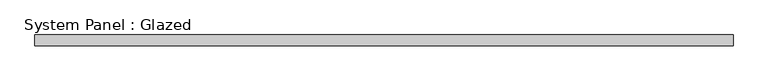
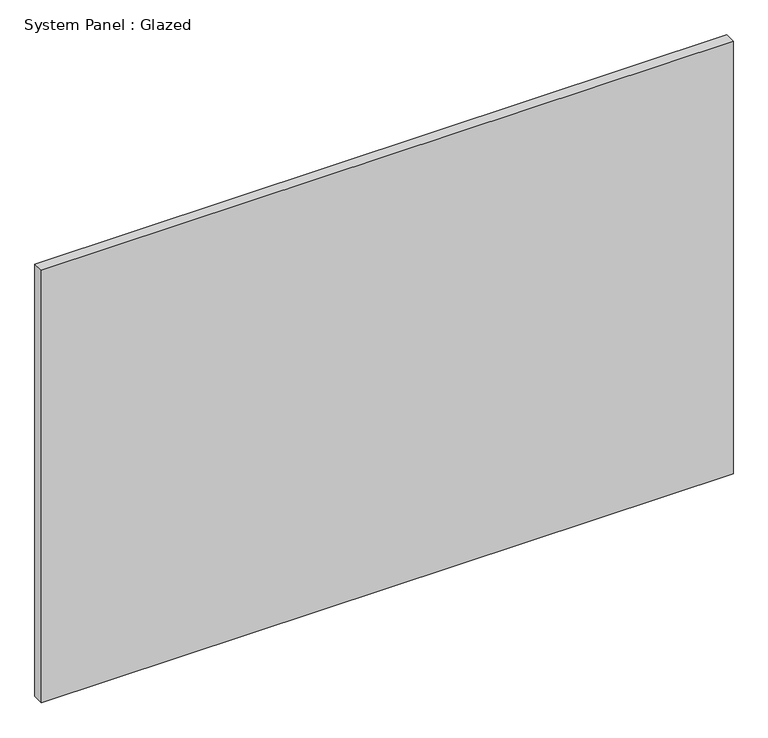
"""IFC4 building model written with IfcOpenShell, lengths in millimetres: plate geometry, System Panel : Glazed."""

from ifc_helpers import new_model, si_unit, origin, origin_with_axes, place, context, project, spatial, polyline, outline, extrude, source, transform, mapped, element, save


def system_panel_glazed_fcc6e020(model_context):
    return source(origin(), model_context, "Body", "SweptSolid", [
        extrude(outline(polyline([(806.8423679, 19.05), (-806.8423679, 19.05), (-806.8423679, 44.45), (806.8423679, 44.45), (806.8423679, 19.05)])), origin_with_axes(), (0.0, 0.0, 1.0), 1066.0767085),
    ])


if __name__ == "__main__":
    model = new_model("IFC4")
    model_context = context("Model", 3, world=origin())
    ifc_project = project(units=[si_unit("LENGTHUNIT", "METRE", prefix="MILLI")], contexts=[model_context])
    site = spatial("IfcSite", under=ifc_project)
    building = spatial("IfcBuilding", under=site)
    placement = place(None, origin())
    system_panel_glazed_shape = system_panel_glazed_fcc6e020(model_context)
    element("IfcPlate", 1, ObjectType="System Panel : Glazed", at=placement, inside=building, context=model_context, shape_type="MappedRepresentation", body=[
        mapped(system_panel_glazed_shape, transform((0.0, 0.0, 0.0), x_axis=(1.0, 0.0, 0.0), y_axis=(0.0, 1.0, 0.0), z_axis=(0.0, 0.0, 1.0))),
    ])
    save(model, "model.ifc")
